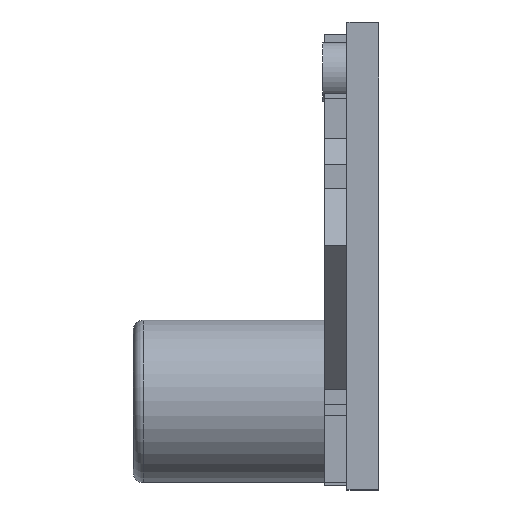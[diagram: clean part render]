
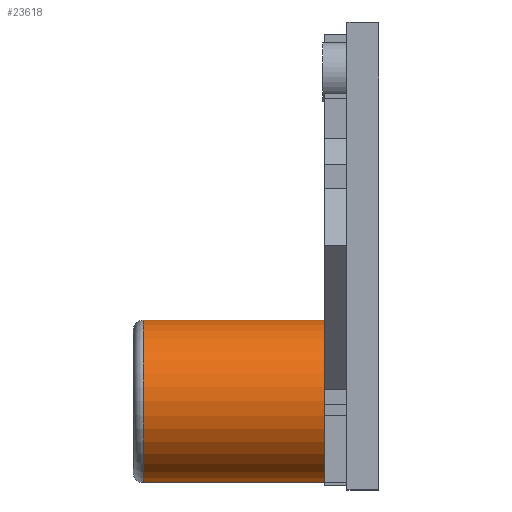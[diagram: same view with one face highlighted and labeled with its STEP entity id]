
A CAD part, left-side view. The second image highlights one B-rep face of the part: STEP entity #23618.
In plain terms, the highlighted cylindrical face has radius 4 mm (diameter 8 mm), a full revolution.
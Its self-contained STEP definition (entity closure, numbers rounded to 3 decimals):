
#197 = FACE_OUTER_BOUND ( 'NONE', #3499, .T. ) ;
#1133 = EDGE_LOOP ( 'NONE', ( #27638 ) ) ;
#1518 = CARTESIAN_POINT ( 'NONE',  ( 9.2, 10.775, -7.15 ) ) ;
#3061 = CIRCLE ( 'NONE', #8655, 4. ) ;
#3499 = EDGE_LOOP ( 'NONE', ( #18933 ) ) ;
#6357 = EDGE_CURVE ( 'NONE', #21566, #21566, #14704, .T. ) ;
#8249 = DIRECTION ( 'NONE',  ( 0., 1., 0. ) ) ;
#8655 = AXIS2_PLACEMENT_3D ( 'NONE', #1518, #21766, #19246 ) ;
#11919 = FACE_OUTER_BOUND ( 'NONE', #1133, .T. ) ;
#14704 = CIRCLE ( 'NONE', #20310, 4. ) ;
#15089 = EDGE_CURVE ( 'NONE', #37173, #37173, #3061, .T. ) ;
#18933 = ORIENTED_EDGE ( 'NONE', *, *, #15089, .T. ) ;
#19246 = DIRECTION ( 'NONE',  ( 0., 0., -1. ) ) ;
#19323 = AXIS2_PLACEMENT_3D ( 'NONE', #20307, #38227, #38414 ) ;
#20307 = CARTESIAN_POINT ( 'NONE',  ( 9.2, 11.275, -7.15 ) ) ;
#20310 = AXIS2_PLACEMENT_3D ( 'NONE', #34914, #8249, #34731 ) ;
#21566 = VERTEX_POINT ( 'NONE', #36974 ) ;
#21766 = DIRECTION ( 'NONE',  ( 0., -1., 0. ) ) ;
#23618 = ADVANCED_FACE ( 'NONE', ( #197, #11919 ), #29625, .T. ) ;
#27638 = ORIENTED_EDGE ( 'NONE', *, *, #6357, .T. ) ;
#29625 = CYLINDRICAL_SURFACE ( 'NONE', #19323, 4. ) ;
#31284 = CARTESIAN_POINT ( 'NONE',  ( 9.2, 10.775, -11.15 ) ) ;
#34731 = DIRECTION ( 'NONE',  ( 0., 0., 1. ) ) ;
#34914 = CARTESIAN_POINT ( 'NONE',  ( 9.2, 1.875, -7.15 ) ) ;
#36974 = CARTESIAN_POINT ( 'NONE',  ( 9.2, 1.875, -3.15 ) ) ;
#37173 = VERTEX_POINT ( 'NONE', #31284 ) ;
#38227 = DIRECTION ( 'NONE',  ( 0., -1., 0. ) ) ;
#38414 = DIRECTION ( 'NONE',  ( 0., 0., -1. ) ) ;
